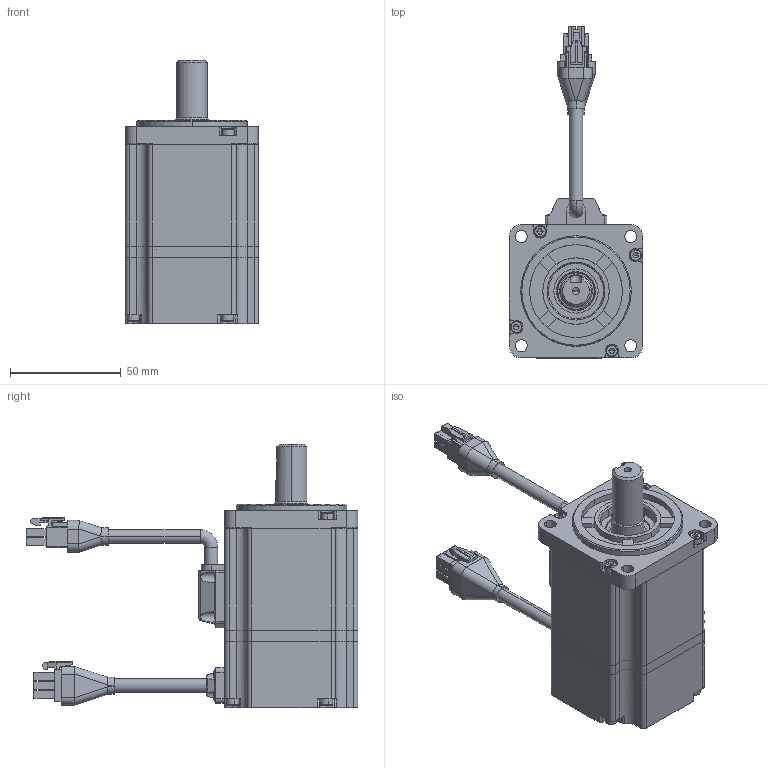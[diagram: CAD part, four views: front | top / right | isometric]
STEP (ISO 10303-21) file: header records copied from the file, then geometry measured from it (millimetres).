
FILE_DESCRIPTION (( 'STEP AP203' ), '1' );
FILE_NAME ('R60-400.STEP', '2019-08-23T07:04:45', ( '1' ), ( 'MideaGroup IT' ), 'SwSTEP 2.0', 'SolidWorks 2012', '' );
FILE_SCHEMA (( 'CONFIG_CONTROL_DESIGN' ));
Products named in the file (25): R60-400; M3X28_GB_FASTENER_SCREWS_HSHCS M3X25-C; 雄薯盄揤裔郪璃; 雄薯盄傷赽裔; 雄薯盄; 雄薯盄傷赽; 雄薯盄躇猾菜; 雄薯盄揤裔; 毀嚏盄揤裔郪璃; 毀嚏盄傷赽揤裔; M2.5X5_GB_CROSS_SCREWS_TYPE3 M2.5X8-8-N; 晤鎢ん盄傷赽; 晤鎢ん盄揤裔躇猾; 晤鎢ん盄揤裔; 蛌赽郪璃-001; 6003; 6003_qiu; 6003_bq; 6003_nh; 6003_wq; 萇儂粣-001; 綴裔-001; 綴傷裔-001; ヶ傷裔-001; 儂褲-001
Assembly tree (48 placements, depth 4):
  R60-400
    儂褲-001
    ヶ傷裔-001
    綴傷裔-001
    綴裔-001
    蛌赽郪璃-001
      萇儂粣-001
      6003
        6003_wq
        6003_nh
        6003_bq
        6003_qiu  x11
    毀嚏盄揤裔郪璃
      晤鎢ん盄揤裔
      晤鎢ん盄揤裔躇猾
      晤鎢ん盄傷赽
      M2.5X5_GB_CROSS_SCREWS_TYPE3 M2.5X8-8-N  x4
      毀嚏盄傷赽揤裔
    雄薯盄揤裔郪璃
      雄薯盄揤裔
      雄薯盄躇猾菜
      雄薯盄傷赽
      雄薯盄
      M2.5X5_GB_CROSS_SCREWS_TYPE3 M2.5X8-8-N  x4
      雄薯盄傷赽裔
    M3X28_GB_FASTENER_SCREWS_HSHCS M3X25-C  x8
Bounding box: 60.2 x 150 x 119 mm (x, y, z)
Volume: 130278.2 mm3; surface area: 90742.3 mm2
Topology: 46 solids, 72 shells, 1571 faces, 4264 edges, 2810 vertices
Faces by surface type: plane 766, cylinder 608, cone 89, torus 56, sphere 38, bspline 14
Entity records: 46423 total; most frequent: CARTESIAN_POINT 11960, DIRECTION 6598, ORIENTED_EDGE 6293, EDGE_CURVE 3327, AXIS2_PLACEMENT_3D 2334, VERTEX_POINT 2214, LINE 1930, VECTOR 1930
